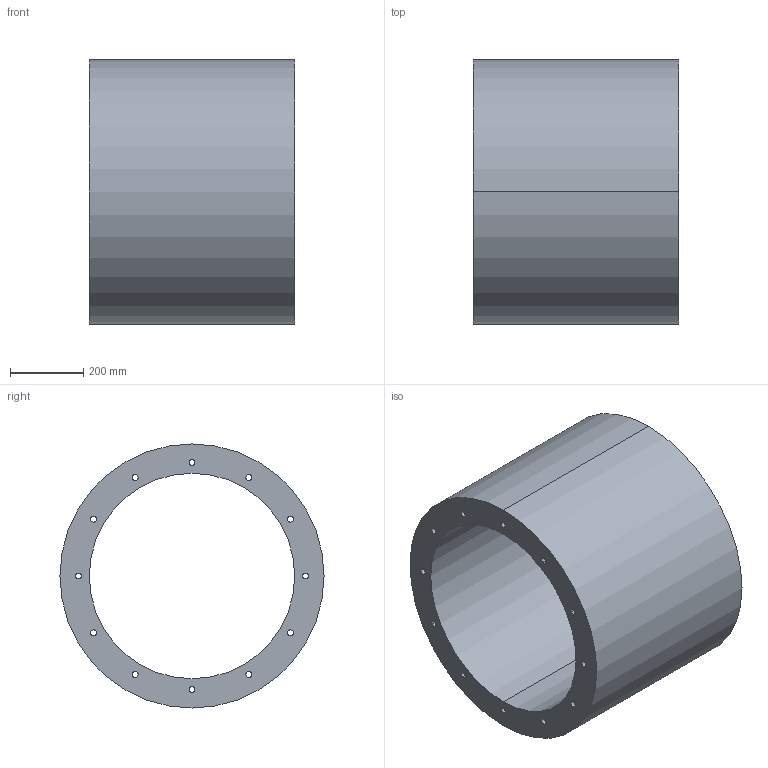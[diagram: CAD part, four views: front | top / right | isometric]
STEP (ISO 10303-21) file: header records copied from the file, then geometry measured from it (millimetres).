
FILE_DESCRIPTION(('STEP AP214'),'1');
FILE_NAME('accessory_5211810900.stp','2017-10-09T11:36:43',('TraceParts'),('TraceParts S.A.'),'Spatial InterOp 3D',' ',' ');
FILE_SCHEMA(('automotive_design'));
Length unit declared in the file: millimetre
Products named in the file (1): accessory_5211810900
Bounding box: 560 x 720 x 720 mm (x, y, z)
Volume: 88724608.4 mm3; surface area: 2906551.3 mm2
Topology: 1 solids, 1 shells, 30 faces, 84 edges, 56 vertices
Faces by surface type: cylinder 28, plane 2
Entity records: 1312 total; most frequent: DIRECTION 202, CARTESIAN_POINT 171, ORIENTED_EDGE 168, AXIS2_PLACEMENT_3D 87, EDGE_CURVE 84, EDGE_LOOP 56, VERTEX_POINT 56, CIRCLE 56
